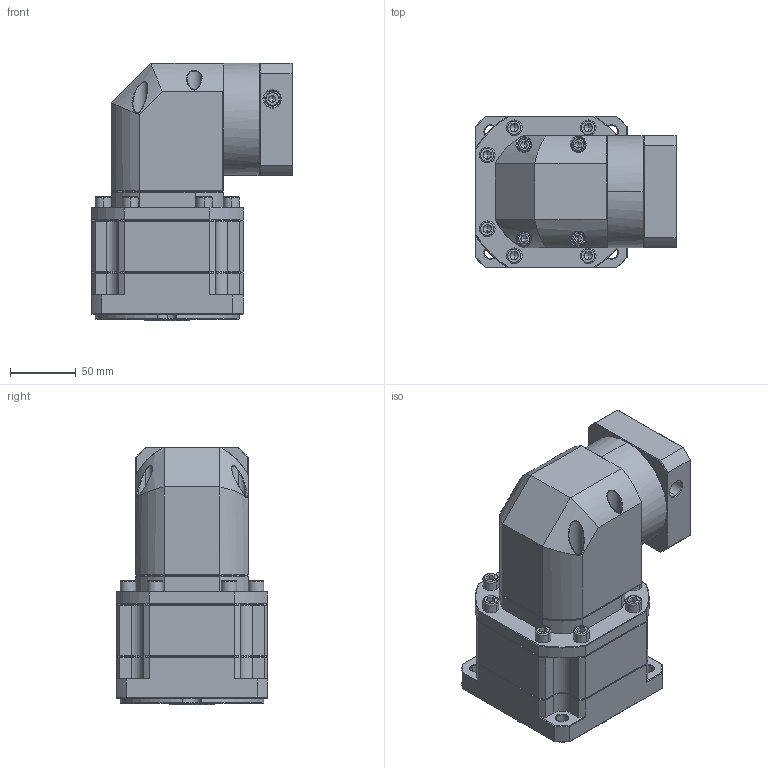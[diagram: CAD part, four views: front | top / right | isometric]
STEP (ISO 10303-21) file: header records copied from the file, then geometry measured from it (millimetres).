
FILE_DESCRIPTION (( 'STEP AP214' ), '1' );
FILE_NAME ('ZB115A-K25-L2-P2-14-60-75-M5.step', '2023-08-26T13:31:48', ( '' ), ( '' ), 'SwSTEP 2.0', 'SolidWorks 2016', '' );
FILE_SCHEMA (( 'AUTOMOTIVE_DESIGN' ));
Length unit declared in the file: millimetre
Products named in the file (1): ZB115A-K25-L2-P2-14-60-75-M5
Bounding box: 152.6 x 115 x 195 mm (x, y, z)
Volume: 1898526.5 mm3; surface area: 174006.2 mm2
Topology: 6 solids, 6 shells, 2552 faces, 6596 edges, 4152 vertices
Faces by surface type: plane 1293, cylinder 443, bspline 442, cone 360, torus 14
Entity records: 132017 total; most frequent: CARTESIAN_POINT 45384, ORIENTED_EDGE 13088, DIRECTION 10544, EDGE_CURVE 6544, VECTOR 4278, LINE 4278, VERTEX_POINT 4152, AXIS2_PLACEMENT_3D 3133
